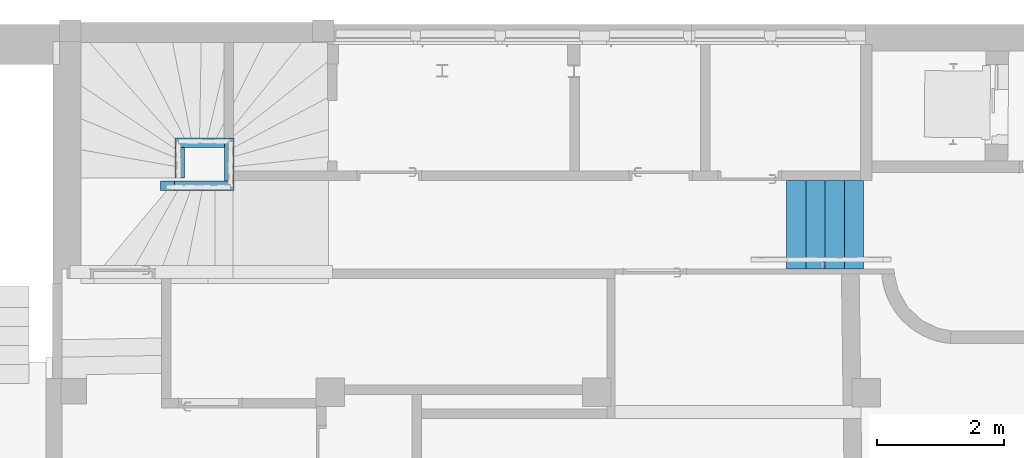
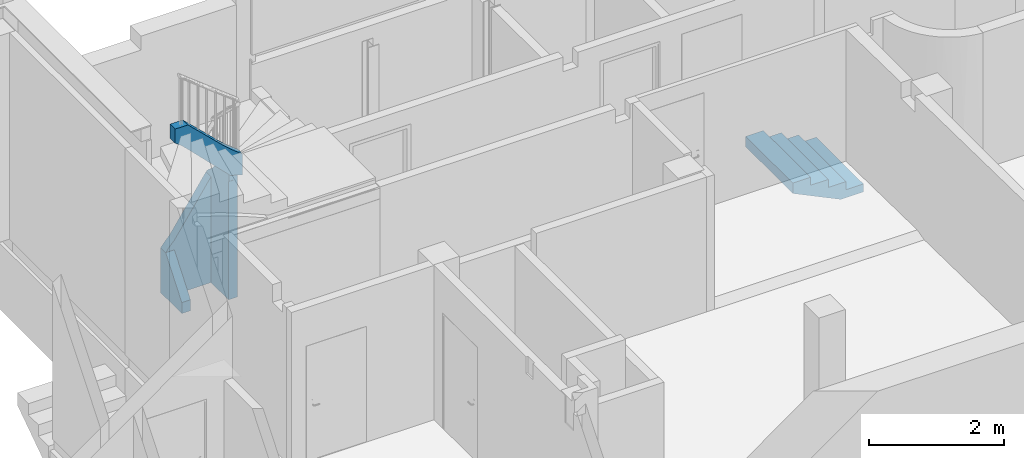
# One storey, part 34 of 39: 1 stair, 1 stair flight, 1 element without a shape of its own.
"""IFC4 building model written with IfcOpenShell, lengths in metres."""

from ifc_helpers import new_model, entity, si_unit, converted_unit, derived_unit, direction, frame, origin, place, context, subcontext, project, spatial, polygons, material, type_object, element, aggregate, save


model = new_model("IFC4")

# Units and contexts
model_context = context("Model", 3, precision=1e-05, world=origin(), true_north=direction((6.12303176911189e-17, 1.0)))
body_context = subcontext(model_context, "Body", "Model", "MODEL_VIEW")
ifc_project = project(units=[si_unit("LENGTHUNIT", "METRE"), si_unit("AREAUNIT", "SQUARE_METRE"), si_unit("VOLUMEUNIT", "CUBIC_METRE"), converted_unit("PLANEANGLEUNIT", "DEGREE", entity("IfcRatioMeasure", 0.0174532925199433), si_unit("PLANEANGLEUNIT", "RADIAN"), dimensions=[0, 0, 0, 0, 0, 0, 0]), si_unit("MASSUNIT", "GRAM", prefix="KILO"), derived_unit("MASSDENSITYUNIT", [(si_unit("MASSUNIT", "GRAM", prefix="KILO"), 1), (si_unit("LENGTHUNIT", "METRE"), -3)]), derived_unit("MOMENTOFINERTIAUNIT", [(si_unit("LENGTHUNIT", "METRE"), 4)]), si_unit("TIMEUNIT", "SECOND"), si_unit("FREQUENCYUNIT", "HERTZ"), si_unit("THERMODYNAMICTEMPERATUREUNIT", "DEGREE_CELSIUS"), derived_unit("THERMALTRANSMITTANCEUNIT", [(si_unit("MASSUNIT", "GRAM", prefix="KILO"), 1), (si_unit("THERMODYNAMICTEMPERATUREUNIT", "KELVIN"), -1), (si_unit("TIMEUNIT", "SECOND"), -3)]), derived_unit("VOLUMETRICFLOWRATEUNIT", [(si_unit("LENGTHUNIT", "METRE"), 3), (si_unit("TIMEUNIT", "SECOND"), -1)]), si_unit("ELECTRICCURRENTUNIT", "AMPERE"), si_unit("ELECTRICVOLTAGEUNIT", "VOLT"), si_unit("POWERUNIT", "WATT"), si_unit("FORCEUNIT", "NEWTON", prefix="KILO"), si_unit("ILLUMINANCEUNIT", "LUX"), si_unit("LUMINOUSFLUXUNIT", "LUMEN"), si_unit("LUMINOUSINTENSITYUNIT", "CANDELA"), derived_unit("USERDEFINED", [(si_unit("MASSUNIT", "GRAM", prefix="KILO"), -1), (si_unit("LENGTHUNIT", "METRE"), -2), (si_unit("TIMEUNIT", "SECOND"), 3), (si_unit("LUMINOUSFLUXUNIT", "LUMEN"), 1)]), derived_unit("LINEARVELOCITYUNIT", [(si_unit("LENGTHUNIT", "METRE"), 1), (si_unit("TIMEUNIT", "SECOND"), -1)]), si_unit("PRESSUREUNIT", "PASCAL"), derived_unit("USERDEFINED", [(si_unit("LENGTHUNIT", "METRE"), -2), (si_unit("MASSUNIT", "GRAM", prefix="KILO"), 1), (si_unit("TIMEUNIT", "SECOND"), -2)]), derived_unit("LINEARFORCEUNIT", [(si_unit("MASSUNIT", "GRAM", prefix="KILO"), 1), (si_unit("LENGTHUNIT", "METRE"), 1), (si_unit("TIMEUNIT", "SECOND"), -2), (si_unit("LENGTHUNIT", "METRE"), -1)]), derived_unit("PLANARFORCEUNIT", [(si_unit("MASSUNIT", "GRAM", prefix="KILO"), 1), (si_unit("LENGTHUNIT", "METRE"), 1), (si_unit("TIMEUNIT", "SECOND"), -2), (si_unit("LENGTHUNIT", "METRE"), -2)])], contexts=[model_context])

# Site, building, storey
site_placement = place(None, origin())
site = spatial("IfcSite", under=ifc_project, at=site_placement, Name="Default", CompositionType="ELEMENT")
building_placement = place(site_placement, origin())
building = spatial("IfcBuilding", under=site, at=building_placement, Name="HOTEL CONSULAIRE BOULOGNE SUR MER", CompositionType="ELEMENT")
storey_placement = place(building_placement, frame((0.0, 0.0, -5.02343668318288)))
storey = spatial("IfcBuildingStorey", under=building, at=storey_placement, Name="SS3", CompositionType="ELEMENT", Elevation=-5.02343668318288)

# Stair
ifc_material_1 = material(Name="Finition Peinture - Blanc satiné", Category="Peinture")
stair_type_1 = type_object("IfcStairType", Name="Limon 3:Limon 3", PredefinedType="NOTDEFINED")
stair_1_placement = place(storey_placement, frame((-3.90849633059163, -12.4341009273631, 0.0726259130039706)))
element("IfcStair", 1, at=stair_1_placement, inside=storey, type_object=stair_type_1, material=ifc_material_1, Name="Limon 3:Limon 3", ObjectType="Limon 3:Limon 3", PredefinedType="NOTDEFINED", context=body_context, shape_type="Tessellation", body=[
    polygons([(0.0015952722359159, 0.150000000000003, 3.5466109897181), (0.0015952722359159, 2.16573425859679e-15, 3.5466109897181), (0.218239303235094, 2.16573425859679e-15, 3.5466109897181), (0.218239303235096, 0.150000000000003, 3.5466109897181), (0.231552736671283, 0.831446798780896, 0.0), (1.15959527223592, 0.831446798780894, 0.0), (1.15959527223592, 0.162634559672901, 0.0), (1.00959527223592, 0.162634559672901, 0.0), (1.00959527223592, 0.681446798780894, 0.0), (0.381552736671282, 0.681446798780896, 0.0), (0.38155273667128, 0.201244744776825, 0.0), (0.23155273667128, 0.201244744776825, 0.0), (0.23155273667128, 0.201244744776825, 0.199824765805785), (0.231552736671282, 0.662323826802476, 0.789979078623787), (0.231552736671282, 0.671664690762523, 0.801465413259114), (0.231552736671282, 0.681446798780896, 0.812578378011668), (0.231552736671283, 0.831446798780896, 0.812578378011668), (0.38155273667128, 0.201244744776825, 0.199824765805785), (0.381552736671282, 0.681446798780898, 0.812578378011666), (0.381552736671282, 0.671664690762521, 0.801465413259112), (0.381552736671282, 0.662323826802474, 0.789979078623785), (1.00959527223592, 0.681446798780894, 1.91617862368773), (1.00323029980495, 0.681446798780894, 1.90868751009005), (0.99743600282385, 0.681446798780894, 1.90074674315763), (0.381552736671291, 0.681446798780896, 0.987662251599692), (0.30239965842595, 0.681446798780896, 0.903678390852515), (1.00959527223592, 0.162634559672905, 2.14073952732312), (1.00959527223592, 0.150000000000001, 2.15337408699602), (1.00959527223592, 0.150000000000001, 2.35910744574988), (1.00959527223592, 0.150000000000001, 2.69207043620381), (1.00959527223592, 0.68045163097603, 2.05990279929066), (1.00959527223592, 0.725244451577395, 2.03208335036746), (1.00959527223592, 0.76583023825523, 1.99842161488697), (1.00959527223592, 0.801452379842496, 1.95954512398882), (1.00959527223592, 0.831446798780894, 1.91617862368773), (1.15959527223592, 0.150000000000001, 2.69207043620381), (0.981670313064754, 0.150000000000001, 2.36465008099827), (0.953595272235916, 0.150000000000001, 2.36937408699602), (0.38155273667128, 0.150000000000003, 2.94141662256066), (0.187781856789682, 0.150000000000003, 3.13518750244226), (0.0980908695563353, 0.150000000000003, 3.21739527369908), (0.0015952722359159, 0.150000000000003, 3.29149784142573), (0.801072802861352, 0.150000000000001, 2.98692502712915), (0.915488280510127, 0.150000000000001, 2.88255535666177), (1.0351004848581, 0.150000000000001, 2.78418437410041), (0.00159527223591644, 2.16573425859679e-15, 3.29149784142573), (0.0980908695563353, 2.16573425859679e-15, 3.21739527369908), (0.187781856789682, 2.16573425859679e-15, 3.13518750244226), (0.38155273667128, 2.16573425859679e-15, 2.94141662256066), (0.953595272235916, 0.0, 2.36937408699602), (1.05811078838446, 0.0, 2.34743130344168), (1.15959527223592, 0.0, 2.31417655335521), (1.15959527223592, 0.0, 2.69207043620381), (1.0351004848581, 0.0, 2.78418437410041), (0.915488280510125, 0.0, 2.88255535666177), (0.801072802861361, 0.0, 2.98692502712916), (1.15959527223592, 0.831446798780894, 1.91617862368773), (1.15959527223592, 0.801452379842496, 1.95954512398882), (1.15959527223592, 0.76583023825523, 1.99842161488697), (1.15959527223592, 0.725244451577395, 2.03208335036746), (1.15959527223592, 0.680451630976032, 2.05990279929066), (1.15959527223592, 0.150000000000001, 2.31417655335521), (1.15959527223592, 0.150000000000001, 2.15337408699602), (1.15959527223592, 0.162634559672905, 2.14073952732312), (0.302399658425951, 0.831446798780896, 0.903678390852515), (0.38155273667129, 0.831446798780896, 0.987662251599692), (0.99743600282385, 0.831446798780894, 1.90074674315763), (1.00323029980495, 0.831446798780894, 1.90868751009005), (1.00959527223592, 0.782117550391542, 1.91617862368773), (0.99743600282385, 0.730776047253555, 1.90074674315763), (1.0032455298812, 0.755969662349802, 1.90870683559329), (1.08547437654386, 0.150000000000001, 2.33966923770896)], [[[4, 1, 2, 3]], [[11, 12, 5, 6, 7, 8, 9, 10]], [[17, 5, 12, 13, 14, 15, 16]], [[22, 9, 8, 27, 28, 29, 30, 31, 32, 33, 34, 35, 69]], [[2, 1, 42, 46]], [[18, 13, 12, 11]], [[22, 23, 24, 25, 26, 16, 19, 10, 9]], [[3, 2, 46, 47, 48, 49, 50, 51, 52, 53, 54, 55, 56]], [[8, 7, 64, 27]], [[72, 29, 28, 63, 62]], [[19, 20, 21, 18, 11, 10]], [[53, 52, 62, 63, 64, 7, 6, 57, 58, 59, 60, 61, 36]], [[40, 41, 42, 1, 4, 43, 44, 45, 36, 30, 29, 37, 38, 39]], [[35, 57, 6, 5, 17, 65, 66, 67, 68]], [[16, 15, 20, 19]], [[20, 15, 14, 21]], [[18, 21, 14, 13]], [[68, 67, 71]], [[68, 69, 35]], [[22, 69, 71]], [[70, 23, 71]], [[68, 71, 69]], [[67, 70, 71]], [[22, 71, 23]], [[24, 23, 70]], [[66, 25, 24, 70, 67]], [[66, 65, 26, 25]], [[26, 65, 17, 16]], [[30, 36, 61, 31]], [[60, 59, 33, 32]], [[60, 32, 31, 61]], [[58, 57, 35, 34]], [[58, 34, 33, 59]], [[28, 27, 64, 63]], [[38, 50, 49, 48, 40, 39]], [[4, 3, 56, 43]], [[55, 44, 43, 56]], [[55, 54, 45, 44]], [[53, 36, 45, 54]], [[52, 72, 62]], [[72, 52, 51]], [[51, 29, 72]], [[50, 38, 37]], [[51, 50, 29]], [[37, 29, 50]], [[47, 41, 40, 48]], [[46, 42, 41, 47]]], closed=True),
])

# Stair, stair flight
stair_type_2 = type_object("IfcStairType", PredefinedType="STRAIGHT_RUN_STAIR")
stair_2_placement = place(storey_placement, origin())
stair_2 = element("IfcStair", 2, at=stair_2_placement, inside=storey, type_object=stair_type_2, Name="Escalier coulé sur place:Escalier", PredefinedType="STRAIGHT_RUN_STAIR")
ifc_material_2 = material(Name="Maçonnerie - Béton", Category="Béton")
stair_flight_type = type_object("IfcStairFlightType", Name="Volée monobloc:Profondeur de structure 170 mm", PredefinedType="NOTDEFINED")
stair_flight_placement = place(stair_2_placement, frame((5.96220721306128, -13.668909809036, 0.0)))
stair_flight = element("IfcStairFlight", 3, at=stair_flight_placement, type_object=stair_flight_type, material=ifc_material_2, Name="Escalier coulé sur place:Escalier:444188 Run 1", ObjectType="Volée monobloc:Profondeur de structure 170 mm", PredefinedType="NOTDEFINED", context=body_context, shape_type="Tessellation", body=[
    polygons([(0.910950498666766, 2.16573425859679e-15, -0.503999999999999), (1.21095049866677, 2.16573425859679e-15, -0.503999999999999), (1.21095049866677, 1.39744344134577, -0.503999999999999), (0.910950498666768, 1.39744344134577, -0.503999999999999), (0.910950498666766, 2.16573425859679e-15, -0.649999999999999), (1.21095049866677, 2.16573425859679e-15, -0.649999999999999), (1.21095049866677, 1.39744344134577, -0.649999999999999), (0.910950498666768, 1.39744344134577, -0.649999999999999), (0.910950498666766, 2.16573425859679e-15, -0.358), (0.910950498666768, 1.39744344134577, -0.358), (0.872204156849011, 1.39744344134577, -0.358), (0.608598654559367, 1.39744344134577, -0.358), (0.608598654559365, 2.16573425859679e-15, -0.358), (0.872204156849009, 2.16573425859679e-15, -0.358), (0.608598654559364, 2.16573425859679e-15, -0.547254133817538), (0.822289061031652, 2.16573425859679e-15, -0.649999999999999), (0.872204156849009, 2.16573425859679e-15, -0.649999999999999), (0.872204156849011, 1.39744344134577, -0.649999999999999), (0.822289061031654, 1.39744344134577, -0.649999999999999), (0.608598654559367, 1.39744344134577, -0.547254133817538), (0.304000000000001, 4.33146851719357e-15, -0.211999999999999), (0.608598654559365, 2.16573425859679e-15, -0.211999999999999), (0.608598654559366, 1.39744344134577, -0.211999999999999), (0.304000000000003, 1.39744344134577, -0.211999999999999), (0.304, 4.33146851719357e-15, -0.400798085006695), (0.304000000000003, 1.39744344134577, -0.400798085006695), (1.08286712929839e-15, 4.33146851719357e-15, -0.0660000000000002), (0.304000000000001, 4.33146851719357e-15, -0.0660000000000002), (0.304000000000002, 1.39744344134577, -0.0660000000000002), (3.24860138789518e-15, 1.39744344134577, -0.0660000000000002), (0.0, 4.33146851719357e-15, -0.254629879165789), (3.24860138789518e-15, 1.39744344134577, -0.254629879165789)], [[[4, 1, 2, 3]], [[12, 13, 14, 9, 10, 11]], [[24, 21, 22, 23]], [[30, 27, 28, 29]], [[2, 1, 9, 14, 13, 22, 21, 28, 27, 31, 25, 15, 16, 17, 5, 6]], [[3, 2, 6, 7]], [[10, 9, 1, 4]], [[23, 22, 13, 12]], [[29, 28, 21, 24]], [[4, 3, 7, 8, 18, 19, 20, 26, 32, 30, 29, 24, 23, 12, 11, 10]], [[27, 30, 32, 31]], [[19, 18, 8, 7, 6, 5, 17, 16]], [[32, 26, 20, 19, 16, 15, 25, 31]]], closed=True),
])
aggregate(stair_2, [stair_flight])

save(model, "model.ifc")
